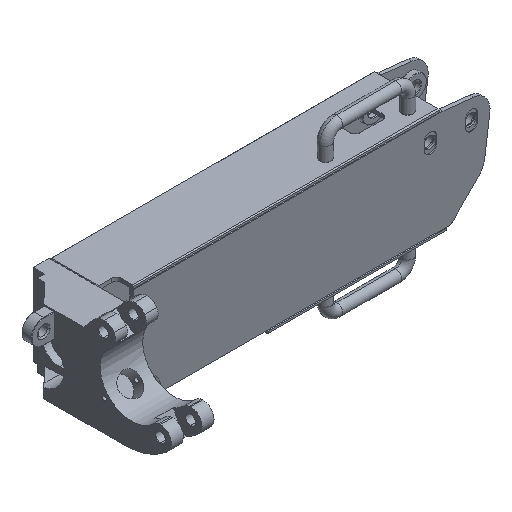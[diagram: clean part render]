
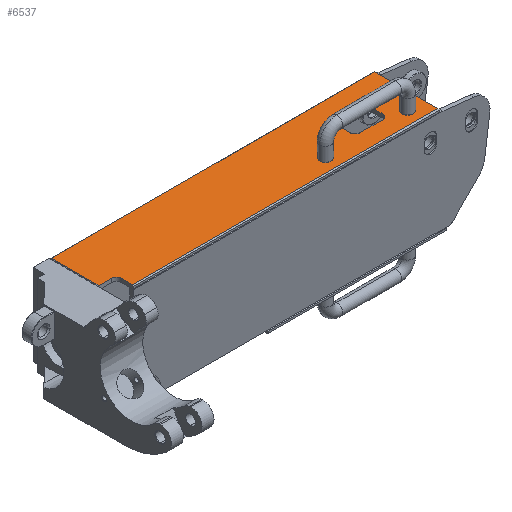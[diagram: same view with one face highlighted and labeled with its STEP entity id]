
A CAD part, isometric view. The second image highlights one B-rep face of the part: STEP entity #6537.
In plain terms, the highlighted planar face has unit normal (0, 0, 1).
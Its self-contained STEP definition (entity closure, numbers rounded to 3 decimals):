
#184 = ORIENTED_EDGE ( 'NONE', *, *, #5568, .T. ) ;
#207 = VERTEX_POINT ( 'NONE', #4682 ) ;
#223 = VERTEX_POINT ( 'NONE', #2475 ) ;
#501 = DIRECTION ( 'NONE',  ( 0.001, 0., -1. ) ) ;
#507 = EDGE_CURVE ( 'NONE', #207, #5750, #7487, .T. ) ;
#526 = AXIS2_PLACEMENT_3D ( 'NONE', #3736, #8471, #3630 ) ;
#593 = CARTESIAN_POINT ( 'NONE',  ( 364.444, -499999.603, -359.978 ) ) ;
#754 = DIRECTION ( 'NONE',  ( 1., 0., 0.001 ) ) ;
#779 = ORIENTED_EDGE ( 'NONE', *, *, #2087, .F. ) ;
#844 = LINE ( 'NONE', #3291, #4160 ) ;
#891 = LINE ( 'NONE', #2446, #2378 ) ;
#914 = LINE ( 'NONE', #2573, #8680 ) ;
#923 = CARTESIAN_POINT ( 'NONE',  ( -333.176, 60.047, -248.155 ) ) ;
#927 = CARTESIAN_POINT ( 'NONE',  ( 224.444, 64.044, -247.71 ) ) ;
#1051 = CARTESIAN_POINT ( 'NONE',  ( 294.444, 74.044, -247.652 ) ) ;
#1247 = DIRECTION ( 'NONE',  ( 0., -1., 0. ) ) ;
#1455 = CARTESIAN_POINT ( 'NONE',  ( 603.793, 25.427, -247.417 ) ) ;
#1523 = DIRECTION ( 'NONE',  ( 1., 0., 0.001 ) ) ;
#1573 = AXIS2_PLACEMENT_3D ( 'NONE', #2571, #7146, #6303 ) ;
#1837 = DIRECTION ( 'NONE',  ( -1., 0., -0.001 ) ) ;
#1857 = DIRECTION ( 'NONE',  ( 0.001, 0., -1. ) ) ;
#2087 = EDGE_CURVE ( 'NONE', #3616, #4573, #3259, .T. ) ;
#2184 = VERTEX_POINT ( 'NONE', #8127 ) ;
#2210 = CARTESIAN_POINT ( 'NONE',  ( 224.444, 74.044, -247.708 ) ) ;
#2244 = CIRCLE ( 'NONE', #7381, 10. ) ;
#2378 = VECTOR ( 'NONE', #6326, 1000. ) ;
#2423 = DIRECTION ( 'NONE',  ( 0., 1., 0. ) ) ;
#2446 = CARTESIAN_POINT ( 'NONE',  ( 603.793, 162.66, -247.386 ) ) ;
#2475 = CARTESIAN_POINT ( 'NONE',  ( 364.444, 162.66, -247.576 ) ) ;
#2563 = CARTESIAN_POINT ( 'NONE',  ( -294.786, 60.047, -248.125 ) ) ;
#2568 = ORIENTED_EDGE ( 'NONE', *, *, #8604, .F. ) ;
#2571 = CARTESIAN_POINT ( 'NONE',  ( 234.444, 114.044, -247.691 ) ) ;
#2573 = CARTESIAN_POINT ( 'NONE',  ( -295.556, 22.043, -248.134 ) ) ;
#2666 = DIRECTION ( 'NONE',  ( 0., -1., 0. ) ) ;
#2710 = AXIS2_PLACEMENT_3D ( 'NONE', #5021, #1857, #8041 ) ;
#2961 = DIRECTION ( 'NONE',  ( 0., -1., 0. ) ) ;
#2979 = EDGE_CURVE ( 'NONE', #223, #9750, #891, .T. ) ;
#3127 = ORIENTED_EDGE ( 'NONE', *, *, #8304, .T. ) ;
#3190 = AXIS2_PLACEMENT_3D ( 'NONE', #5721, #7177, #7931 ) ;
#3195 = VERTEX_POINT ( 'NONE', #5856 ) ;
#3244 = ORIENTED_EDGE ( 'NONE', *, *, #9177, .T. ) ;
#3259 = LINE ( 'NONE', #2563, #7827 ) ;
#3291 = CARTESIAN_POINT ( 'NONE',  ( 224.444, 124.044, -247.697 ) ) ;
#3400 = VECTOR ( 'NONE', #1247, 1000. ) ;
#3423 = CARTESIAN_POINT ( 'NONE',  ( -305.556, 60.047, -248.133 ) ) ;
#3435 = CARTESIAN_POINT ( 'NONE',  ( 234.444, 74.044, -247.7 ) ) ;
#3505 = PLANE ( 'NONE',  #9000 ) ;
#3616 = VERTEX_POINT ( 'NONE', #3423 ) ;
#3630 = DIRECTION ( 'NONE',  ( -1., 0., -0.001 ) ) ;
#3659 = CARTESIAN_POINT ( 'NONE',  ( 224.444, 114.044, -247.699 ) ) ;
#3736 = CARTESIAN_POINT ( 'NONE',  ( 284.444, 74.044, -247.66 ) ) ;
#3934 = ORIENTED_EDGE ( 'NONE', *, *, #6682, .F. ) ;
#4144 = DIRECTION ( 'NONE',  ( 0.001, 0., -1. ) ) ;
#4160 = VECTOR ( 'NONE', #6977, 1000. ) ;
#4295 = EDGE_CURVE ( 'NONE', #8483, #3195, #844, .T. ) ;
#4400 = CARTESIAN_POINT ( 'NONE',  ( 364.444, 25.427, -247.607 ) ) ;
#4472 = EDGE_CURVE ( 'NONE', #8081, #8394, #2244, .T. ) ;
#4552 = ORIENTED_EDGE ( 'NONE', *, *, #7705, .F. ) ;
#4573 = VERTEX_POINT ( 'NONE', #923 ) ;
#4682 = CARTESIAN_POINT ( 'NONE',  ( -295.556, 25.427, -248.133 ) ) ;
#5021 = CARTESIAN_POINT ( 'NONE',  ( 284.444, 114.044, -247.651 ) ) ;
#5030 = EDGE_CURVE ( 'NONE', #9496, #3195, #8001, .T. ) ;
#5139 = VECTOR ( 'NONE', #7096, 1000. ) ;
#5144 = EDGE_CURVE ( 'NONE', #8483, #2184, #7847, .T. ) ;
#5298 = ORIENTED_EDGE ( 'NONE', *, *, #2979, .T. ) ;
#5348 = CIRCLE ( 'NONE', #526, 10. ) ;
#5378 = DIRECTION ( 'NONE',  ( 0., 1., 0. ) ) ;
#5397 = VECTOR ( 'NONE', #754, 1000. ) ;
#5460 = VECTOR ( 'NONE', #5378, 1000. ) ;
#5540 = CARTESIAN_POINT ( 'NONE',  ( 224.444, 64.044, -247.71 ) ) ;
#5568 = EDGE_CURVE ( 'NONE', #3616, #8384, #6575, .T. ) ;
#5721 = CARTESIAN_POINT ( 'NONE',  ( -305.556, 50.047, -248.136 ) ) ;
#5750 = VERTEX_POINT ( 'NONE', #4400 ) ;
#5759 = ORIENTED_EDGE ( 'NONE', *, *, #4295, .F. ) ;
#5772 = ORIENTED_EDGE ( 'NONE', *, *, #507, .T. ) ;
#5856 = CARTESIAN_POINT ( 'NONE',  ( 234.444, 124.044, -247.689 ) ) ;
#5930 = CARTESIAN_POINT ( 'NONE',  ( 603.793, -499999.603, -359.788 ) ) ;
#6031 = CARTESIAN_POINT ( 'NONE',  ( -295.556, 50.047, -248.128 ) ) ;
#6303 = DIRECTION ( 'NONE',  ( -1., 0., -0.001 ) ) ;
#6305 = VECTOR ( 'NONE', #2961, 1000. ) ;
#6326 = DIRECTION ( 'NONE',  ( -1., 0., -0.001 ) ) ;
#6343 = EDGE_CURVE ( 'NONE', #207, #8384, #914, .T. ) ;
#6347 = DIRECTION ( 'NONE',  ( -1., 0., -0.001 ) ) ;
#6452 = EDGE_CURVE ( 'NONE', #9496, #8394, #7798, .T. ) ;
#6537 = ADVANCED_FACE ( 'NONE', ( #6540, #8042 ), #3505, .F. ) ;
#6540 = FACE_BOUND ( 'NONE', #8266, .T. ) ;
#6575 = CIRCLE ( 'NONE', #3190, 10. ) ;
#6682 = EDGE_CURVE ( 'NONE', #6862, #2184, #9910, .T. ) ;
#6756 = ORIENTED_EDGE ( 'NONE', *, *, #5030, .T. ) ;
#6862 = VERTEX_POINT ( 'NONE', #1051 ) ;
#6977 = DIRECTION ( 'NONE',  ( -1., 0., -0.001 ) ) ;
#7096 = DIRECTION ( 'NONE',  ( 0., -1., 0. ) ) ;
#7146 = DIRECTION ( 'NONE',  ( 0.001, 0., -1. ) ) ;
#7163 = EDGE_LOOP ( 'NONE', ( #2568, #5298, #3127, #779, #184, #7327, #5772 ) ) ;
#7177 = DIRECTION ( 'NONE',  ( 0.001, 0., -1. ) ) ;
#7259 = ORIENTED_EDGE ( 'NONE', *, *, #6452, .F. ) ;
#7327 = ORIENTED_EDGE ( 'NONE', *, *, #6343, .F. ) ;
#7381 = AXIS2_PLACEMENT_3D ( 'NONE', #3435, #4144, #1837 ) ;
#7487 = LINE ( 'NONE', #1455, #5397 ) ;
#7591 = LINE ( 'NONE', #8447, #6305 ) ;
#7654 = ORIENTED_EDGE ( 'NONE', *, *, #5144, .T. ) ;
#7705 = EDGE_CURVE ( 'NONE', #8081, #8862, #8572, .T. ) ;
#7725 = VECTOR ( 'NONE', #1523, 1000. ) ;
#7792 = CARTESIAN_POINT ( 'NONE',  ( 284.444, 124.044, -247.649 ) ) ;
#7798 = LINE ( 'NONE', #5540, #5139 ) ;
#7827 = VECTOR ( 'NONE', #6347, 1000. ) ;
#7847 = CIRCLE ( 'NONE', #2710, 10. ) ;
#7931 = DIRECTION ( 'NONE',  ( -1., 0., -0.001 ) ) ;
#8001 = CIRCLE ( 'NONE', #1573, 10. ) ;
#8041 = DIRECTION ( 'NONE',  ( -1., 0., -0.001 ) ) ;
#8042 = FACE_OUTER_BOUND ( 'NONE', #7163, .T. ) ;
#8081 = VERTEX_POINT ( 'NONE', #9224 ) ;
#8127 = CARTESIAN_POINT ( 'NONE',  ( 294.444, 114.044, -247.643 ) ) ;
#8266 = EDGE_LOOP ( 'NONE', ( #4552, #9481, #7259, #6756, #5759, #7654, #3934, #3244 ) ) ;
#8304 = EDGE_CURVE ( 'NONE', #9750, #4573, #7591, .T. ) ;
#8384 = VERTEX_POINT ( 'NONE', #6031 ) ;
#8394 = VERTEX_POINT ( 'NONE', #2210 ) ;
#8443 = CARTESIAN_POINT ( 'NONE',  ( 294.444, 64.044, -247.654 ) ) ;
#8447 = CARTESIAN_POINT ( 'NONE',  ( -333.176, -499999.603, -360.534 ) ) ;
#8471 = DIRECTION ( 'NONE',  ( 0.001, 0., -1. ) ) ;
#8483 = VERTEX_POINT ( 'NONE', #7792 ) ;
#8572 = LINE ( 'NONE', #927, #7725 ) ;
#8604 = EDGE_CURVE ( 'NONE', #223, #5750, #8851, .T. ) ;
#8680 = VECTOR ( 'NONE', #2423, 1000. ) ;
#8851 = LINE ( 'NONE', #593, #3400 ) ;
#8862 = VERTEX_POINT ( 'NONE', #9499 ) ;
#9000 = AXIS2_PLACEMENT_3D ( 'NONE', #5930, #501, #2666 ) ;
#9163 = CARTESIAN_POINT ( 'NONE',  ( -333.176, 162.66, -248.132 ) ) ;
#9177 = EDGE_CURVE ( 'NONE', #6862, #8862, #5348, .T. ) ;
#9224 = CARTESIAN_POINT ( 'NONE',  ( 234.444, 64.044, -247.702 ) ) ;
#9481 = ORIENTED_EDGE ( 'NONE', *, *, #4472, .T. ) ;
#9496 = VERTEX_POINT ( 'NONE', #3659 ) ;
#9499 = CARTESIAN_POINT ( 'NONE',  ( 284.444, 64.044, -247.662 ) ) ;
#9750 = VERTEX_POINT ( 'NONE', #9163 ) ;
#9910 = LINE ( 'NONE', #8443, #5460 ) ;
